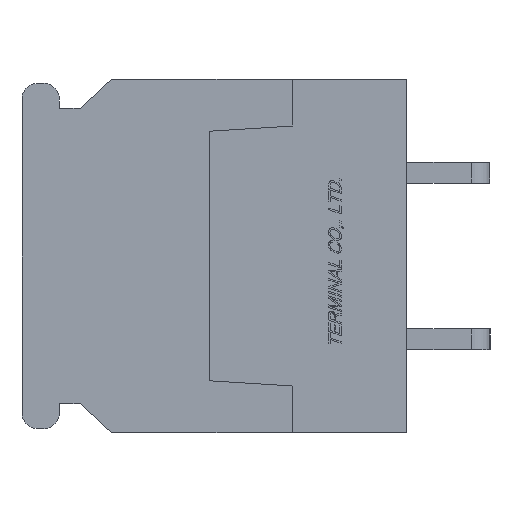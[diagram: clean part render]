
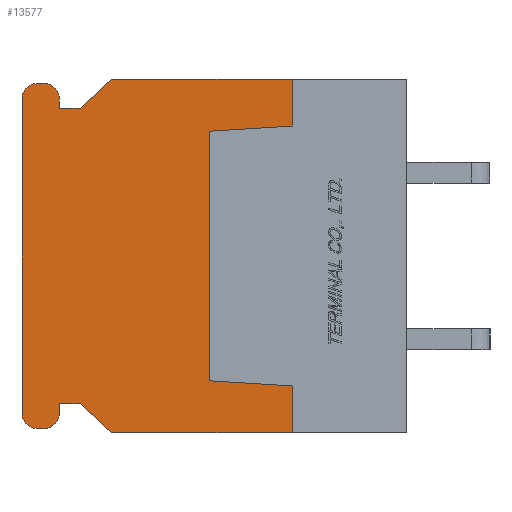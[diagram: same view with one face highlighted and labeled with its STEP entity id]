
A CAD part, left-side view. The second image highlights one B-rep face of the part: STEP entity #13577.
In plain terms, the highlighted planar face has unit normal (-1, 0, 0).
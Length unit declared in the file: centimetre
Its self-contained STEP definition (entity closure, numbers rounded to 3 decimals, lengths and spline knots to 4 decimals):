
#819=CIRCLE('',#14542,0.075);
#820=CIRCLE('',#14545,0.075);
#821=CIRCLE('',#14548,0.075);
#822=CIRCLE('',#14551,0.075);
#1817=VERTEX_POINT('',#21122);
#1818=VERTEX_POINT('',#21124);
#1819=VERTEX_POINT('',#21128);
#1820=VERTEX_POINT('',#21132);
#1821=VERTEX_POINT('',#21136);
#1822=VERTEX_POINT('',#21140);
#1841=VERTEX_POINT('',#21190);
#1842=VERTEX_POINT('',#21194);
#1843=VERTEX_POINT('',#21198);
#1844=VERTEX_POINT('',#21202);
#1845=VERTEX_POINT('',#21206);
#1846=VERTEX_POINT('',#21210);
#1847=VERTEX_POINT('',#21214);
#1848=VERTEX_POINT('',#21218);
#1849=VERTEX_POINT('',#21222);
#1850=VERTEX_POINT('',#21226);
#1851=VERTEX_POINT('',#21230);
#1852=VERTEX_POINT('',#21234);
#1853=VERTEX_POINT('',#21238);
#1854=VERTEX_POINT('',#21242);
#3260=VECTOR('',#16863,1.);
#3263=VECTOR('',#16867,1.);
#3265=VECTOR('',#16870,1.);
#3267=VECTOR('',#16873,1.);
#3269=VECTOR('',#16876,1.);
#3290=VECTOR('',#16911,1.);
#3292=VECTOR('',#16914,1.);
#3294=VECTOR('',#16917,1.);
#3296=VECTOR('',#16920,1.);
#3299=VECTOR('',#16928,1.);
#3302=VECTOR('',#16936,1.);
#3305=VECTOR('',#16944,1.);
#3308=VECTOR('',#16952,1.);
#3310=VECTOR('',#16955,1.);
#3312=VECTOR('',#16958,1.);
#3313=VECTOR('',#16960,1.);
#4778=LINE('',#21123,#3260);
#4781=LINE('',#21129,#3263);
#4783=LINE('',#21133,#3265);
#4785=LINE('',#21137,#3267);
#4787=LINE('',#21141,#3269);
#4808=LINE('',#21191,#3290);
#4810=LINE('',#21195,#3292);
#4812=LINE('',#21199,#3294);
#4814=LINE('',#21203,#3296);
#4817=LINE('',#21211,#3299);
#4820=LINE('',#21219,#3302);
#4823=LINE('',#21227,#3305);
#4826=LINE('',#21235,#3308);
#4828=LINE('',#21239,#3310);
#4830=LINE('',#21243,#3312);
#4831=LINE('',#21245,#3313);
#6698=EDGE_CURVE('',#1818,#1817,#4778,.T.);
#6701=EDGE_CURVE('',#1817,#1819,#4781,.T.);
#6703=EDGE_CURVE('',#1819,#1820,#4783,.T.);
#6705=EDGE_CURVE('',#1820,#1821,#4785,.T.);
#6707=EDGE_CURVE('',#1821,#1822,#4787,.T.);
#6732=EDGE_CURVE('',#1841,#1822,#4808,.T.);
#6734=EDGE_CURVE('',#1842,#1841,#4810,.T.);
#6736=EDGE_CURVE('',#1843,#1842,#4812,.T.);
#6738=EDGE_CURVE('',#1844,#1843,#4814,.T.);
#6740=EDGE_CURVE('',#1845,#1844,#819,.T.);
#6742=EDGE_CURVE('',#1846,#1845,#4817,.T.);
#6744=EDGE_CURVE('',#1847,#1846,#820,.T.);
#6746=EDGE_CURVE('',#1848,#1847,#4820,.T.);
#6748=EDGE_CURVE('',#1849,#1848,#821,.T.);
#6750=EDGE_CURVE('',#1850,#1849,#4823,.T.);
#6752=EDGE_CURVE('',#1851,#1850,#822,.T.);
#6754=EDGE_CURVE('',#1852,#1851,#4826,.T.);
#6756=EDGE_CURVE('',#1853,#1852,#4828,.T.);
#6758=EDGE_CURVE('',#1854,#1853,#4830,.T.);
#6759=EDGE_CURVE('',#1818,#1854,#4831,.T.);
#10315=ORIENTED_EDGE('',*,*,#6707,.T.);
#10316=ORIENTED_EDGE('',*,*,#6732,.F.);
#10317=ORIENTED_EDGE('',*,*,#6734,.F.);
#10318=ORIENTED_EDGE('',*,*,#6736,.F.);
#10319=ORIENTED_EDGE('',*,*,#6738,.F.);
#10320=ORIENTED_EDGE('',*,*,#6740,.F.);
#10321=ORIENTED_EDGE('',*,*,#6742,.F.);
#10322=ORIENTED_EDGE('',*,*,#6744,.F.);
#10323=ORIENTED_EDGE('',*,*,#6746,.F.);
#10324=ORIENTED_EDGE('',*,*,#6748,.F.);
#10325=ORIENTED_EDGE('',*,*,#6750,.F.);
#10326=ORIENTED_EDGE('',*,*,#6752,.F.);
#10327=ORIENTED_EDGE('',*,*,#6754,.F.);
#10328=ORIENTED_EDGE('',*,*,#6756,.F.);
#10329=ORIENTED_EDGE('',*,*,#6758,.F.);
#10330=ORIENTED_EDGE('',*,*,#6759,.F.);
#10331=ORIENTED_EDGE('',*,*,#6698,.T.);
#10332=ORIENTED_EDGE('',*,*,#6701,.T.);
#10333=ORIENTED_EDGE('',*,*,#6703,.T.);
#10334=ORIENTED_EDGE('',*,*,#6705,.T.);
#11955=EDGE_LOOP('',(#10315,#10316,#10317,#10318,#10319,#10320,#10321,#10322,
#10323,#10324,#10325,#10326,#10327,#10328,#10329,#10330,#10331,#10332,#10333,
#10334));
#12801=FACE_BOUND('',#11955,.T.);
#13577=ADVANCED_FACE('',(#12801),#23121,.F.);
#14542=AXIS2_PLACEMENT_3D('',#21207,#16924,#16925);
#14545=AXIS2_PLACEMENT_3D('',#21215,#16932,#16933);
#14548=AXIS2_PLACEMENT_3D('',#21223,#16940,#16941);
#14551=AXIS2_PLACEMENT_3D('',#21231,#16948,#16949);
#14556=AXIS2_PLACEMENT_3D('',#21246,#16961,$);
#16863=DIRECTION('',(0.,0.,1.));
#16867=DIRECTION('',(0.,0.998,0.062));
#16870=DIRECTION('',(0.,0.,1.));
#16873=DIRECTION('',(0.,-0.998,0.062));
#16876=DIRECTION('',(0.,0.,1.));
#16911=DIRECTION('',(0.,-1.,0.));
#16914=DIRECTION('',(0.,-0.731,0.682));
#16917=DIRECTION('',(0.,-1.,0.));
#16920=DIRECTION('',(0.,0.,-1.));
#16924=DIRECTION('',(1.,0.,0.));
#16925=DIRECTION('',(0.,0.,-0.075));
#16928=DIRECTION('',(0.,-1.,0.));
#16932=DIRECTION('',(1.,0.,0.));
#16933=DIRECTION('',(0.,0.,-0.075));
#16936=DIRECTION('',(0.,0.,1.));
#16940=DIRECTION('',(1.,0.,0.));
#16941=DIRECTION('',(0.,0.,-0.075));
#16944=DIRECTION('',(0.,1.,0.));
#16948=DIRECTION('',(1.,0.,0.));
#16949=DIRECTION('',(0.,0.,-0.075));
#16952=DIRECTION('',(0.,0.,-1.));
#16955=DIRECTION('',(0.,1.,0.));
#16958=DIRECTION('',(0.,0.731,0.682));
#16960=DIRECTION('',(0.,1.,0.));
#16961=DIRECTION('',(1.,0.,0.));
#21122=CARTESIAN_POINT('',(0.,0.55,-0.625));
#21123=CARTESIAN_POINT('',(0.,0.55,-0.3687));
#21124=CARTESIAN_POINT('',(0.,0.55,-0.85));
#21128=CARTESIAN_POINT('',(0.,0.95,-0.6));
#21129=CARTESIAN_POINT('',(0.,0.8629,-0.6054));
#21132=CARTESIAN_POINT('',(0.,0.95,0.6));
#21133=CARTESIAN_POINT('',(0.,0.95,0.));
#21136=CARTESIAN_POINT('',(0.,0.55,0.625));
#21137=CARTESIAN_POINT('',(0.,0.8629,0.6054));
#21140=CARTESIAN_POINT('',(0.,0.55,0.85));
#21141=CARTESIAN_POINT('',(0.,0.55,0.3687));
#21190=CARTESIAN_POINT('',(0.,1.42,0.85));
#21191=CARTESIAN_POINT('',(0.,1.42,0.85));
#21194=CARTESIAN_POINT('',(0.,1.57,0.71));
#21195=CARTESIAN_POINT('',(0.,1.57,0.71));
#21198=CARTESIAN_POINT('',(0.,1.67,0.71));
#21199=CARTESIAN_POINT('',(0.,1.67,0.71));
#21202=CARTESIAN_POINT('',(0.,1.67,0.755));
#21203=CARTESIAN_POINT('',(0.,1.67,0.755));
#21206=CARTESIAN_POINT('',(0.,1.745,0.83));
#21207=CARTESIAN_POINT('',(0.,1.745,0.755));
#21210=CARTESIAN_POINT('',(0.,1.775,0.83));
#21211=CARTESIAN_POINT('',(0.,1.775,0.83));
#21214=CARTESIAN_POINT('',(0.,1.85,0.755));
#21215=CARTESIAN_POINT('',(0.,1.775,0.755));
#21218=CARTESIAN_POINT('',(0.,1.85,-0.755));
#21219=CARTESIAN_POINT('',(0.,1.85,-0.755));
#21222=CARTESIAN_POINT('',(0.,1.775,-0.83));
#21223=CARTESIAN_POINT('',(0.,1.775,-0.755));
#21226=CARTESIAN_POINT('',(0.,1.745,-0.83));
#21227=CARTESIAN_POINT('',(0.,1.745,-0.83));
#21230=CARTESIAN_POINT('',(0.,1.67,-0.755));
#21231=CARTESIAN_POINT('',(0.,1.745,-0.755));
#21234=CARTESIAN_POINT('',(0.,1.67,-0.71));
#21235=CARTESIAN_POINT('',(0.,1.67,-0.71));
#21238=CARTESIAN_POINT('',(0.,1.57,-0.71));
#21239=CARTESIAN_POINT('',(0.,1.57,-0.71));
#21242=CARTESIAN_POINT('',(0.,1.42,-0.85));
#21243=CARTESIAN_POINT('',(0.,1.42,-0.85));
#21245=CARTESIAN_POINT('',(0.,0.,-0.85));
#21246=CARTESIAN_POINT('',(0.,0.9383,0.));
#23121=PLANE('',#14556);
